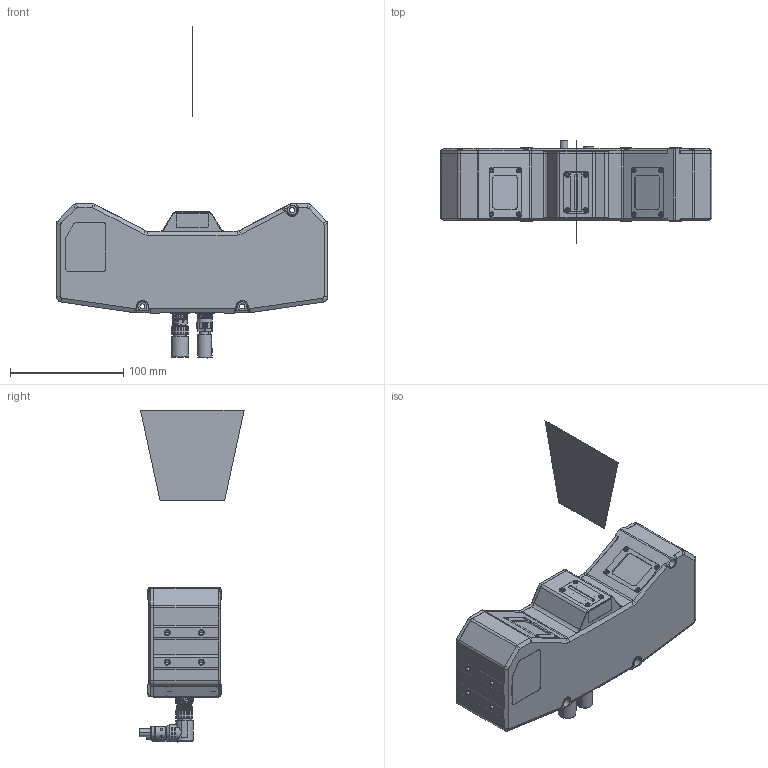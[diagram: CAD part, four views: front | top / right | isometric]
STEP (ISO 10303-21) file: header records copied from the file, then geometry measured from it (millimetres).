
FILE_DESCRIPTION((''),'2;1');
FILE_NAME('MV-DP3120-01D_V2_0','2026-01-05T21:05:09',('shiqiangsheng5'),(''),'CREO PARAMETRIC BY PTC INC, 2020044','CREO PARAMETRIC BY PTC INC, 2020044','');
FILE_SCHEMA(('AUTOMOTIVE_DESIGN { 1 0 10303 214 1 1 1 1 }'));
Products named in the file (1): MV-DP3120-01D_V2_0
Bounding box: 240 x 91.98 x 293 mm (x, y, z)
Surface area: 106265.4 mm2 (no closed solid volume)
Topology: 0 solids, 84 shells, 1370 faces, 4453 edges, 3124 vertices
Faces by surface type: plane 577, cylinder 417, cone 205, torus 99, bspline 68, extrusion 4
Entity records: 81270 total; most frequent: CARTESIAN_POINT 42903, DIRECTION 7780, ORIENTED_EDGE 7573, EDGE_CURVE 4417, VERTEX_POINT 3124, AXIS2_PLACEMENT_3D 2817, VECTOR 2146, LINE 2142
